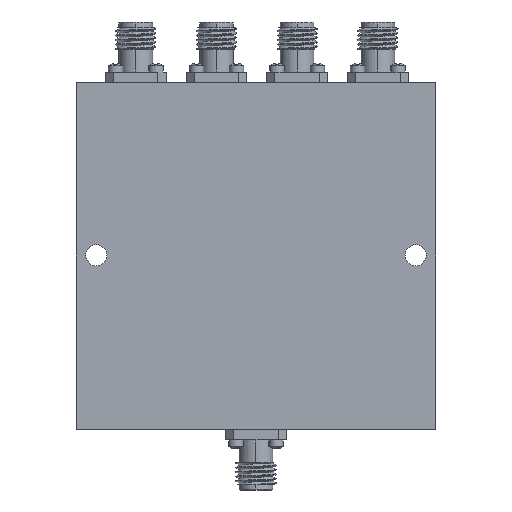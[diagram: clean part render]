
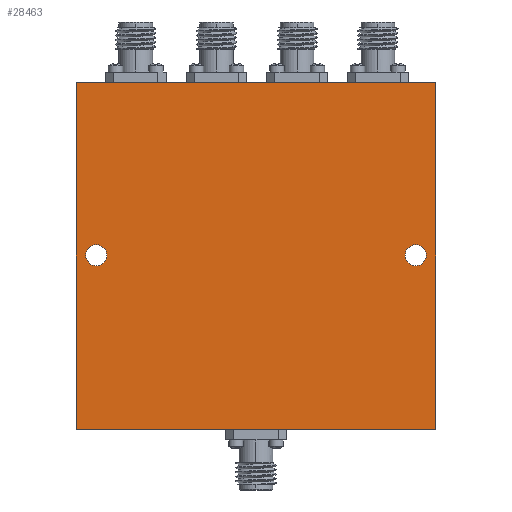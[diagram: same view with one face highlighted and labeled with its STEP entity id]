
A CAD part, front view. The second image highlights one B-rep face of the part: STEP entity #28463.
In plain terms, the highlighted planar face has unit normal (0, -1, 0).
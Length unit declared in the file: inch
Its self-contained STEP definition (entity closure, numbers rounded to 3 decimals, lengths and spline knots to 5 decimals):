
#65 = CARTESIAN_POINT ( 'NONE',  ( 2.105, 0., -1.135 ) ) ;
#547 = CARTESIAN_POINT ( 'NONE',  ( 0., 0., 0. ) ) ;
#1320 = EDGE_CURVE ( 'NONE', #21247, #20170, #5264, .T. ) ;
#3297 = ORIENTED_EDGE ( 'NONE', *, *, #33590, .T. ) ;
#3318 = DIRECTION ( 'NONE',  ( 0., 0., 1. ) ) ;
#3875 = CIRCLE ( 'NONE', #4023, 0.065 ) ;
#4023 = AXIS2_PLACEMENT_3D ( 'NONE', #22871, #38519, #22603 ) ;
#4125 = LINE ( 'NONE', #24515, #36494 ) ;
#4531 = ORIENTED_EDGE ( 'NONE', *, *, #24157, .T. ) ;
#5264 = CIRCLE ( 'NONE', #11755, 0.065 ) ;
#5665 = ORIENTED_EDGE ( 'NONE', *, *, #31116, .T. ) ;
#6034 = ORIENTED_EDGE ( 'NONE', *, *, #41132, .T. ) ;
#6063 = DIRECTION ( 'NONE',  ( 1., 0., 0. ) ) ;
#7284 = FACE_BOUND ( 'NONE', #14640, .T. ) ;
#8135 = CARTESIAN_POINT ( 'NONE',  ( 2.23, 0., 0. ) ) ;
#8610 = EDGE_LOOP ( 'NONE', ( #6034, #35886 ) ) ;
#9848 = EDGE_CURVE ( 'NONE', #13554, #17587, #25951, .T. ) ;
#10279 = CARTESIAN_POINT ( 'NONE',  ( 0., 0., 0. ) ) ;
#11103 = VERTEX_POINT ( 'NONE', #10279 ) ;
#11755 = AXIS2_PLACEMENT_3D ( 'NONE', #32253, #28765, #3318 ) ;
#12414 = CARTESIAN_POINT ( 'NONE',  ( 0.125, 0., -1.005 ) ) ;
#13223 = CARTESIAN_POINT ( 'NONE',  ( 2.23, 0., -2.15 ) ) ;
#13554 = VERTEX_POINT ( 'NONE', #8135 ) ;
#14640 = EDGE_LOOP ( 'NONE', ( #33868, #4531 ) ) ;
#16284 = AXIS2_PLACEMENT_3D ( 'NONE', #547, #33377, #32553 ) ;
#16735 = DIRECTION ( 'NONE',  ( 0., 0., -1. ) ) ;
#16872 = CARTESIAN_POINT ( 'NONE',  ( 0., 0., 0. ) ) ;
#17587 = VERTEX_POINT ( 'NONE', #13223 ) ;
#17919 = VECTOR ( 'NONE', #24056, 39.37008 ) ;
#19848 = CARTESIAN_POINT ( 'NONE',  ( 2.105, 0., -1.07 ) ) ;
#19908 = EDGE_CURVE ( 'NONE', #11103, #13554, #4125, .T. ) ;
#20170 = VERTEX_POINT ( 'NONE', #38888 ) ;
#21128 = DIRECTION ( 'NONE',  ( 0., 0., 1. ) ) ;
#21247 = VERTEX_POINT ( 'NONE', #65 ) ;
#21993 = CARTESIAN_POINT ( 'NONE',  ( 2.23, 0., 0. ) ) ;
#22603 = DIRECTION ( 'NONE',  ( 0., 0., 1. ) ) ;
#22871 = CARTESIAN_POINT ( 'NONE',  ( 0.125, 0., -1.07 ) ) ;
#23935 = ORIENTED_EDGE ( 'NONE', *, *, #9848, .F. ) ;
#24056 = DIRECTION ( 'NONE',  ( 1., 0., 0. ) ) ;
#24157 = EDGE_CURVE ( 'NONE', #20170, #21247, #32104, .T. ) ;
#24515 = CARTESIAN_POINT ( 'NONE',  ( 0., 0., 0. ) ) ;
#25606 = CARTESIAN_POINT ( 'NONE',  ( 0.125, 0., -1.135 ) ) ;
#25858 = AXIS2_PLACEMENT_3D ( 'NONE', #19848, #35784, #26871 ) ;
#25951 = LINE ( 'NONE', #21993, #33931 ) ;
#26000 = FACE_OUTER_BOUND ( 'NONE', #35457, .T. ) ;
#26871 = DIRECTION ( 'NONE',  ( 0., 0., 1. ) ) ;
#27972 = CARTESIAN_POINT ( 'NONE',  ( 0., 0., -2.15 ) ) ;
#28463 = ADVANCED_FACE ( 'NONE', ( #7284, #40108, #26000 ), #38951, .F. ) ;
#28765 = DIRECTION ( 'NONE',  ( 0., 1., 0. ) ) ;
#29583 = VECTOR ( 'NONE', #16735, 39.37008 ) ;
#29990 = EDGE_CURVE ( 'NONE', #33414, #31813, #3875, .T. ) ;
#31116 = EDGE_CURVE ( 'NONE', #11103, #33404, #38057, .T. ) ;
#31211 = DIRECTION ( 'NONE',  ( 0., 0., -1. ) ) ;
#31813 = VERTEX_POINT ( 'NONE', #25606 ) ;
#32104 = CIRCLE ( 'NONE', #25858, 0.065 ) ;
#32253 = CARTESIAN_POINT ( 'NONE',  ( 2.105, 0., -1.07 ) ) ;
#32340 = ORIENTED_EDGE ( 'NONE', *, *, #19908, .F. ) ;
#32403 = LINE ( 'NONE', #36340, #17919 ) ;
#32553 = DIRECTION ( 'NONE',  ( 0., 0., 1. ) ) ;
#33377 = DIRECTION ( 'NONE',  ( 0., 1., 0. ) ) ;
#33404 = VERTEX_POINT ( 'NONE', #27972 ) ;
#33414 = VERTEX_POINT ( 'NONE', #12414 ) ;
#33590 = EDGE_CURVE ( 'NONE', #33404, #17587, #32403, .T. ) ;
#33706 = CIRCLE ( 'NONE', #33933, 0.065 ) ;
#33868 = ORIENTED_EDGE ( 'NONE', *, *, #1320, .T. ) ;
#33931 = VECTOR ( 'NONE', #31211, 39.37008 ) ;
#33933 = AXIS2_PLACEMENT_3D ( 'NONE', #37054, #40224, #21128 ) ;
#35457 = EDGE_LOOP ( 'NONE', ( #32340, #5665, #3297, #23935 ) ) ;
#35784 = DIRECTION ( 'NONE',  ( 0., 1., 0. ) ) ;
#35886 = ORIENTED_EDGE ( 'NONE', *, *, #29990, .T. ) ;
#36340 = CARTESIAN_POINT ( 'NONE',  ( 0., 0., -2.15 ) ) ;
#36494 = VECTOR ( 'NONE', #6063, 39.37008 ) ;
#37054 = CARTESIAN_POINT ( 'NONE',  ( 0.125, 0., -1.07 ) ) ;
#38057 = LINE ( 'NONE', #16872, #29583 ) ;
#38519 = DIRECTION ( 'NONE',  ( 0., 1., 0. ) ) ;
#38888 = CARTESIAN_POINT ( 'NONE',  ( 2.105, 0., -1.005 ) ) ;
#38951 = PLANE ( 'NONE',  #16284 ) ;
#40108 = FACE_BOUND ( 'NONE', #8610, .T. ) ;
#40224 = DIRECTION ( 'NONE',  ( 0., 1., 0. ) ) ;
#41132 = EDGE_CURVE ( 'NONE', #31813, #33414, #33706, .T. ) ;
